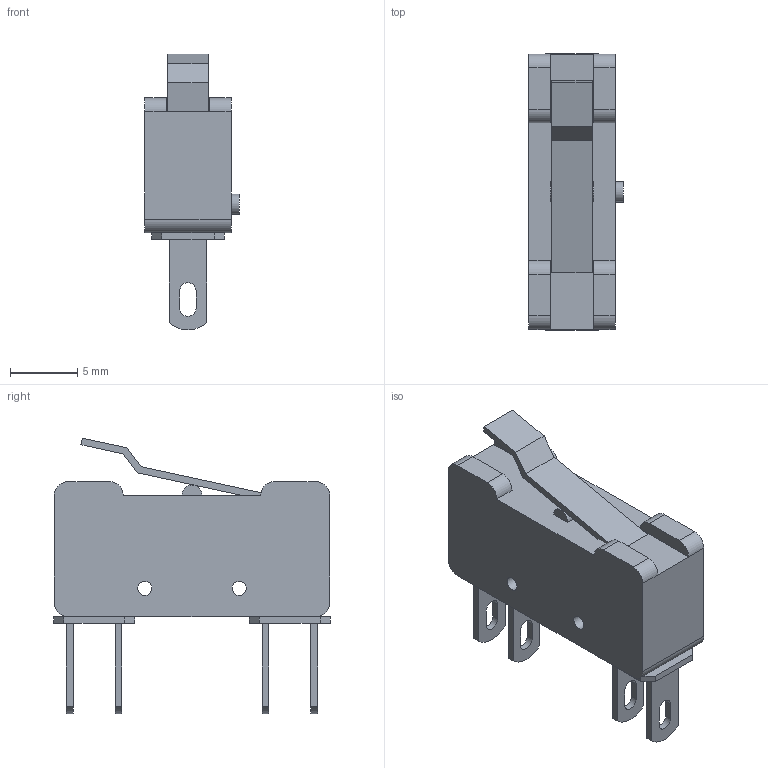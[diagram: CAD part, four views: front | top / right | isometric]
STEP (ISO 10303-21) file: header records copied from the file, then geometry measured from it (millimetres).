
FILE_DESCRIPTION(/* description */ (''),/* implementation_level */ '2;1');
FILE_NAME(/* name */ '69_MZHD',/* time_stamp */ '2014-08-13T13:00:56+02:00',/* author */ (''),/* organization */ (''),/* preprocessor_version */ 'ST-DEVELOPER v9',/* originating_system */ 'UGS - NX 4.0',/* authorisation */ '');
FILE_SCHEMA (('CONFIG_CONTROL_DESIGN'));
Length unit declared in the file: millimetre
Products named in the file (1): MTro45BB8c7v
Bounding box: 7 x 20.5 x 20.42 mm (x, y, z)
Volume: 1282.9 mm3; surface area: 1165.2 mm2
Topology: 6 solids, 6 shells, 103 faces, 259 edges, 170 vertices
Faces by surface type: plane 77, cylinder 26
Full cylindrical faces by diameter (mm): 1.05 x2, 1.5 x1
Entity records: 3146 total; most frequent: CARTESIAN_POINT 530, DIRECTION 516, ORIENTED_EDGE 512, EDGE_CURVE 256, LINE 204, VECTOR 204, VERTEX_POINT 170, AXIS2_PLACEMENT_3D 156
